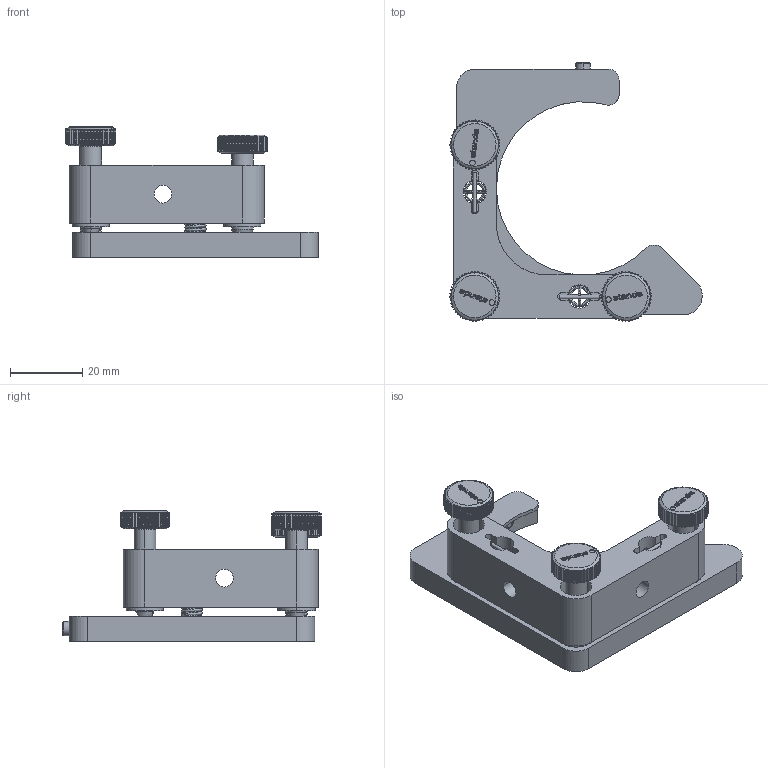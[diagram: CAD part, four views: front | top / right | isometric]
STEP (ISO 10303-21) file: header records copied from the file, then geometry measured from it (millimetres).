
FILE_DESCRIPTION (( 'STEP AP203' ), '1' );
FILE_NAME ('5MBM24-2-3.STEP', '2010-01-06T08:04:07', ( 'Darius' ), ( '' ), 'SwSTEP 2.0', 'SolidWorks 2003240', '' );
FILE_SCHEMA (( 'CONFIG_CONTROL_DESIGN' ));
Products named in the file (1): 5MBM24-2-3
Bounding box: 69.9 x 71.73 x 36.21 mm (x, y, z)
Volume: 31238.6 mm3; surface area: 17086.6 mm2
Topology: 1 solids, 7 shells, 1834 faces, 5346 edges, 3525 vertices
Faces by surface type: cylinder 758, plane 632, bspline 360, cone 84
Entity records: 81428 total; most frequent: CARTESIAN_POINT 37903, ORIENTED_EDGE 10646, DIRECTION 6679, EDGE_CURVE 5323, VERTEX_POINT 3525, B_SPLINE_CURVE_WITH_KNOTS 2341, VECTOR 2231, LINE 2231
